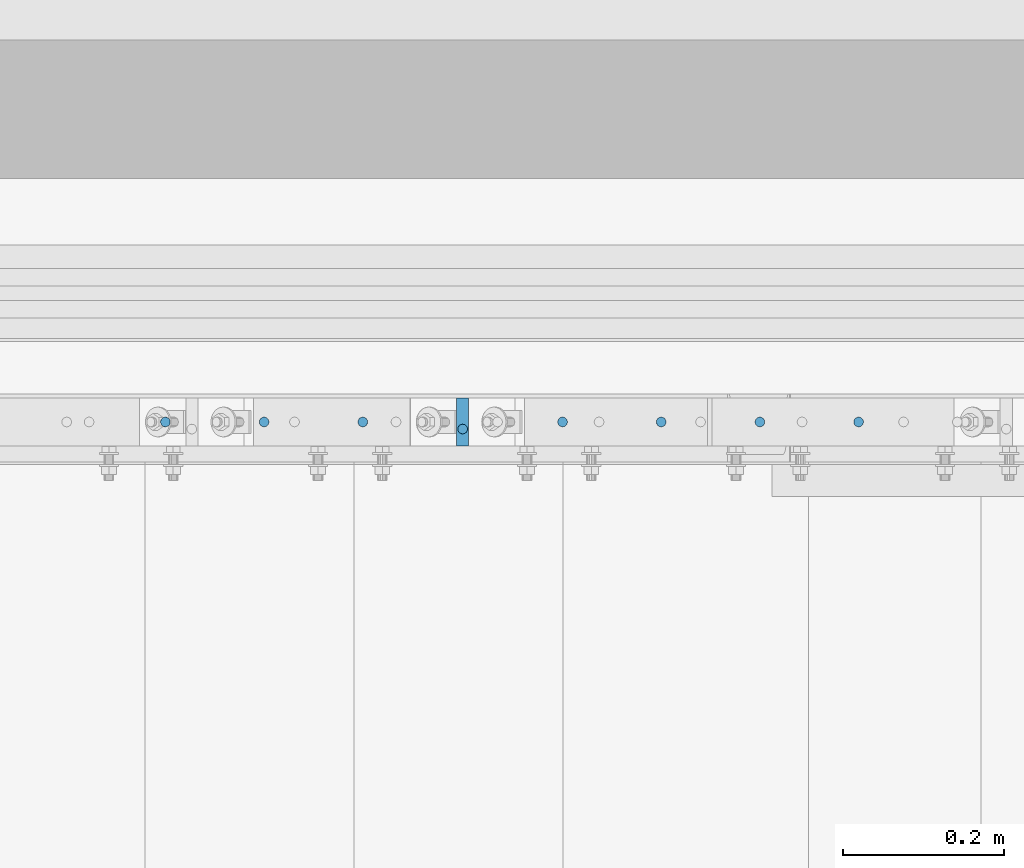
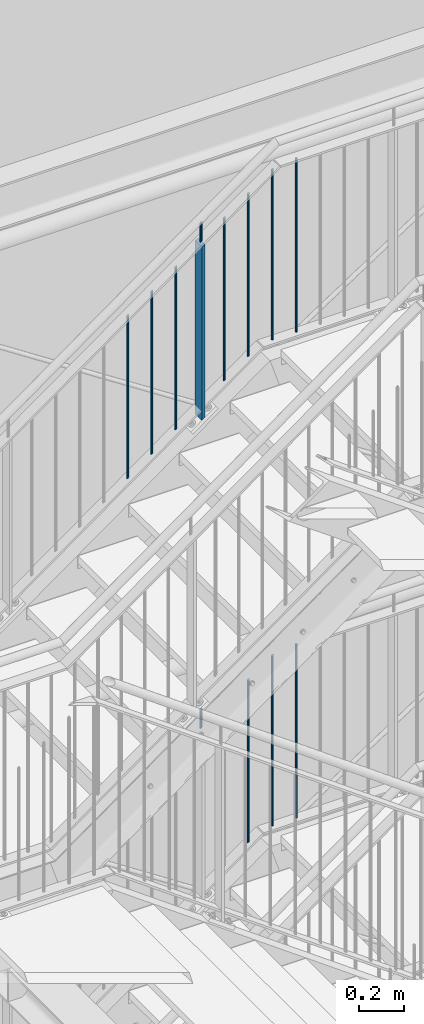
# One storey, part 79 of 831: 13 columns.
"""IFC2X3 building model written with IfcOpenShell, lengths in millimetres."""

from ifc_helpers import new_model, entity, si_unit, converted_unit, frame, origin, origin_with_axes, origin_2d, place, context, project, spatial, rectangle, circle, extrude, clip, halfspace, material, element, save


model = new_model("IFC2X3")

# Units and contexts
model_context = context("Model", 3, precision=1e-09, world=origin_with_axes())
ifc_project = project(units=[si_unit("LENGTHUNIT", "METRE", prefix="MILLI"), si_unit("AREAUNIT", "SQUARE_METRE"), si_unit("VOLUMEUNIT", "CUBIC_METRE"), converted_unit("PLANEANGLEUNIT", "DEGREE", entity("IfcPlaneAngleMeasure", 0.01745329), si_unit("PLANEANGLEUNIT", "RADIAN"), dimensions=[0, 0, 0, 0, 0, 0, 0])], contexts=[model_context])

# Site, building, storey
site_placement = place(None, origin_with_axes())
site = spatial("IfcSite", under=ifc_project, at=site_placement, Name="Site", CompositionType="ELEMENT")
building_placement = place(site_placement, origin_with_axes())
building = spatial("IfcBuilding", under=site, at=building_placement, Name="Struktur 1", CompositionType="ELEMENT")
storey_placement = place(building_placement, origin_with_axes())
storey = spatial("IfcBuildingStorey", under=building, at=storey_placement, Name="Default Storey", CompositionType="ELEMENT", Elevation=0.0)

# Columns
ifc_material = material(Name="S235JR")
column_1_placement = place(None, frame((6918.713712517, 7356.736971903, 14808.560160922), z_axis=(0.0, 0.0, 1.0), x_axis=(1.0, 0.0, 0.0)))
element("IfcColumn", 1, at=column_1_placement, inside=storey, material=ifc_material, Name="Railing_Picket_Stair#15", ObjectType="Railing_Picket_Stair#15", context=model_context, shape_type="Clipping", body=[
    clip(clip(extrude(circle(Radius=6.0, at=origin_2d()), origin(), (0.0, 0.0, -1.0), 896.017308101), halfspace(frame((-11568.68982952, -7356.736971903, -8385.063741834), z_axis=(0.586383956, 0.0, -0.810033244), x_axis=(0.0, 1.0, 0.0)), True)), halfspace(frame((-11153.042560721, -7356.736971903, -8959.240614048), z_axis=(-0.586383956, 0.0, 0.810033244), x_axis=(0.0, -1.0, 0.0)), True)),
])
column_2_placement = place(None, frame((7041.463736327, 7356.736971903, 14897.419038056), z_axis=(0.0, 0.0, 1.0), x_axis=(1.0, 0.0, 0.0)))
element("IfcColumn", 2, at=column_2_placement, inside=storey, material=ifc_material, Name="Railing_Picket_Landing#16", ObjectType="Railing_Picket_Landing#16", context=model_context, shape_type="Clipping", body=[
    clip(extrude(circle(Radius=6.0, at=origin_2d()), origin(), (0.0, 0.0, -1.0), 930.919037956), halfspace(frame((-11691.43985333, -7356.736971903, -8473.922618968), z_axis=(0.586383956, 0.0, -0.810033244), x_axis=(0.0, 1.0, 0.0)), True)),
])
column_3_placement = place(None, frame((7164.213760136, 7356.736971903, 14918.785281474), z_axis=(0.0, 0.0, 1.0), x_axis=(1.0, 0.0, 0.0)))
element("IfcColumn", 3, at=column_3_placement, inside=storey, material=ifc_material, Name="Railing_Picket_Landing#17", ObjectType="Railing_Picket_Landing#17", context=model_context, shape_type="Clipping", body=[
    clip(clip(extrude(circle(Radius=6.0, at=origin_2d()), origin(), (0.0, 0.0, -1.0), 965.770562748), halfspace(frame((-7164.213760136, -7356.736971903, -13.486281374), z_axis=(0.0, 0.0, -1.0), x_axis=(-1.0, 0.0, 0.0)), True)), halfspace(frame((-7164.213760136, -7356.736971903, -952.284281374), z_axis=(0.0, 0.0, 1.0), x_axis=(1.0, 0.0, 0.0)), True)),
])
column_4_placement = place(None, frame((6671.713688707, 7347.936971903, 14742.101744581), z_axis=(0.0, 0.0, 1.0), x_axis=(0.0, -1.0, 0.0)))
element("IfcColumn", 4, at=column_4_placement, inside=storey, material=ifc_material, Name="Bar#2", ObjectType="Bar#2", context=model_context, shape_type="Clipping", body=[
    clip(clip(extrude(circle(Radius=6.0, at=origin_2d()), origin(), (0.0, 0.0, -1.0), 120.950452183), halfspace(frame((7347.936971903, -11327.554818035, -8310.503372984), z_axis=(0.0, -0.586383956, 0.810033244), x_axis=(1.0, 0.0, 0.0)), True)), halfspace(frame((7347.936971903, -11375.052695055, -8244.889607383), z_axis=(0.0, 0.586383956, -0.810033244), x_axis=(-1.0, 0.0, 0.0)), True)),
])
column_5_placement = place(None, frame((6671.713688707, 7356.736971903, 17286.543887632), z_axis=(0.0, 0.0, 1.0), x_axis=(1.0, 0.0, 0.0)))
element("IfcColumn", 5, at=column_5_placement, inside=storey, material=ifc_material, Name="Railing_Post_Stair#2", ObjectType="Railing_Post_Stair#2", context=model_context, shape_type="Clipping", body=[
    clip(clip(extrude(rectangle(XDim=15.0, YDim=60.0, at=origin_2d()), origin(), (0.0, 0.0, -1.0), 1013.117713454), halfspace(frame((-12128.732198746, -7356.736971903, -9705.037253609), z_axis=(-0.584187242, 0.0, 0.811618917), x_axis=(0.0, -1.0, 0.0)), True)), halfspace(frame((-12572.958060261, -7356.736971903, -9087.868499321), z_axis=(0.584187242, 0.0, -0.811618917), x_axis=(0.0, 1.0, 0.0)), True)),
])
column_6_placement = place(None, frame((6301.963641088, 7356.736971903, 16992.759124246), z_axis=(0.0, 0.0, 1.0), x_axis=(1.0, 0.0, 0.0)))
element("IfcColumn", 6, at=column_6_placement, inside=storey, material=ifc_material, Name="Railing_Picket_Stair#11", ObjectType="Railing_Picket_Stair#11", context=model_context, shape_type="Clipping", body=[
    clip(clip(extrude(circle(Radius=6.0, at=origin_2d()), origin(), (0.0, 0.0, -1.0), 896.220460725), halfspace(frame((-12203.208012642, -7356.736971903, -8794.083735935), z_axis=(0.584187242, 0.0, -0.811618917), x_axis=(0.0, 1.0, 0.0)), True)), halfspace(frame((-11788.191513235, -7356.736971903, -9370.671544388), z_axis=(-0.584187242, 0.0, 0.811618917), x_axis=(0.0, -1.0, 0.0)), True)),
])
column_7_placement = place(None, frame((6424.713664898, 7356.736971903, 17081.112163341), z_axis=(0.0, 0.0, 1.0), x_axis=(1.0, 0.0, 0.0)))
element("IfcColumn", 7, at=column_7_placement, inside=storey, material=ifc_material, Name="Railing_Picket_Stair#12", ObjectType="Railing_Picket_Stair#12", context=model_context, shape_type="Clipping", body=[
    clip(clip(extrude(circle(Radius=6.0, at=origin_2d()), origin(), (0.0, 0.0, -1.0), 896.220460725), halfspace(frame((-12325.958036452, -7356.736971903, -8882.43677503), z_axis=(0.584187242, 0.0, -0.811618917), x_axis=(0.0, 1.0, 0.0)), True)), halfspace(frame((-11910.941537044, -7356.736971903, -9459.024583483), z_axis=(-0.584187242, 0.0, 0.811618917), x_axis=(0.0, -1.0, 0.0)), True)),
])
column_8_placement = place(None, frame((6547.463688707, 7356.736971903, 17169.465202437), z_axis=(0.0, 0.0, 1.0), x_axis=(1.0, 0.0, 0.0)))
element("IfcColumn", 8, at=column_8_placement, inside=storey, material=ifc_material, Name="Railing_Picket_Stair#13", ObjectType="Railing_Picket_Stair#13", context=model_context, shape_type="Clipping", body=[
    clip(clip(extrude(circle(Radius=6.0, at=origin_2d()), origin(), (0.0, 0.0, -1.0), 896.220460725), halfspace(frame((-12448.708060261, -7356.736971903, -8970.789814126), z_axis=(0.584187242, 0.0, -0.811618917), x_axis=(0.0, 1.0, 0.0)), True)), halfspace(frame((-12033.691560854, -7356.736971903, -9547.377622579), z_axis=(-0.584187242, 0.0, 0.811618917), x_axis=(0.0, -1.0, 0.0)), True)),
])
column_9_placement = place(None, frame((6795.963688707, 7356.736971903, 17348.330587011), z_axis=(0.0, 0.0, 1.0), x_axis=(1.0, 0.0, 0.0)))
element("IfcColumn", 9, at=column_9_placement, inside=storey, material=ifc_material, Name="Railing_Picket_Stair#14", ObjectType="Railing_Picket_Stair#14", context=model_context, shape_type="Clipping", body=[
    clip(clip(extrude(circle(Radius=6.0, at=origin_2d()), origin(), (0.0, 0.0, -1.0), 896.220460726), halfspace(frame((-12697.208060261, -7356.736971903, -9149.6551987), z_axis=(0.584187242, 0.0, -0.811618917), x_axis=(0.0, 1.0, 0.0)), True)), halfspace(frame((-12282.191560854, -7356.736971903, -9726.243007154), z_axis=(-0.584187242, 0.0, 0.811618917), x_axis=(0.0, -1.0, 0.0)), True)),
])
column_10_placement = place(None, frame((6918.713712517, 7356.736971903, 17436.683626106), z_axis=(0.0, 0.0, 1.0), x_axis=(1.0, 0.0, 0.0)))
element("IfcColumn", 10, at=column_10_placement, inside=storey, material=ifc_material, Name="Railing_Picket_Stair#15", ObjectType="Railing_Picket_Stair#15", context=model_context, shape_type="Clipping", body=[
    clip(clip(extrude(circle(Radius=6.0, at=origin_2d()), origin(), (0.0, 0.0, -1.0), 896.220460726), halfspace(frame((-12819.958084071, -7356.736971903, -9238.008237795), z_axis=(0.584187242, 0.0, -0.811618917), x_axis=(0.0, 1.0, 0.0)), True)), halfspace(frame((-12404.941584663, -7356.736971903, -9814.59604625), z_axis=(-0.584187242, 0.0, 0.811618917), x_axis=(0.0, -1.0, 0.0)), True)),
])
column_11_placement = place(None, frame((7041.463736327, 7356.736971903, 17525.036665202), z_axis=(0.0, 0.0, 1.0), x_axis=(1.0, 0.0, 0.0)))
element("IfcColumn", 11, at=column_11_placement, inside=storey, material=ifc_material, Name="Railing_Picket_Landing#16", ObjectType="Railing_Picket_Landing#16", context=model_context, shape_type="Clipping", body=[
    clip(extrude(circle(Radius=6.0, at=origin_2d()), origin(), (0.0, 0.0, -1.0), 931.036664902), halfspace(frame((-12942.70810788, -7356.736971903, -9326.361276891), z_axis=(0.584187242, 0.0, -0.811618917), x_axis=(0.0, 1.0, 0.0)), True)),
])
column_12_placement = place(None, frame((7164.213760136, 7356.736971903, 17546.285281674), z_axis=(0.0, 0.0, 1.0), x_axis=(1.0, 0.0, 0.0)))
element("IfcColumn", 12, at=column_12_placement, inside=storey, material=ifc_material, Name="Railing_Picket_Landing#17", ObjectType="Railing_Picket_Landing#17", context=model_context, shape_type="Clipping", body=[
    clip(clip(extrude(circle(Radius=6.0, at=origin_2d()), origin(), (0.0, 0.0, -1.0), 965.770562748), halfspace(frame((-7164.213760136, -7356.736971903, -13.486281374), z_axis=(0.0, 0.0, -1.0), x_axis=(-1.0, 0.0, 0.0)), True)), halfspace(frame((-7164.213760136, -7356.736971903, -952.284281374), z_axis=(0.0, 0.0, 1.0), x_axis=(1.0, 0.0, 0.0)), True)),
])
column_13_placement = place(None, frame((6671.713688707, 7347.936971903, 17371.218948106), z_axis=(0.0, 0.0, 1.0), x_axis=(0.0, -1.0, 0.0)))
element("IfcColumn", 13, at=column_13_placement, inside=storey, material=ifc_material, Name="Bar#2", ObjectType="Bar#2", context=model_context, shape_type="Clipping", body=[
    clip(clip(extrude(circle(Radius=6.0, at=origin_2d()), origin(), (0.0, 0.0, -1.0), 120.909520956), halfspace(frame((7347.936971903, -12578.801101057, -9164.42574739), z_axis=(0.0, -0.584187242, 0.811618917), x_axis=(1.0, 0.0, 0.0)), True)), halfspace(frame((7347.936971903, -12626.213674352, -9098.554844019), z_axis=(0.0, 0.584187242, -0.811618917), x_axis=(-1.0, 0.0, 0.0)), True)),
])

save(model, "model.ifc")
